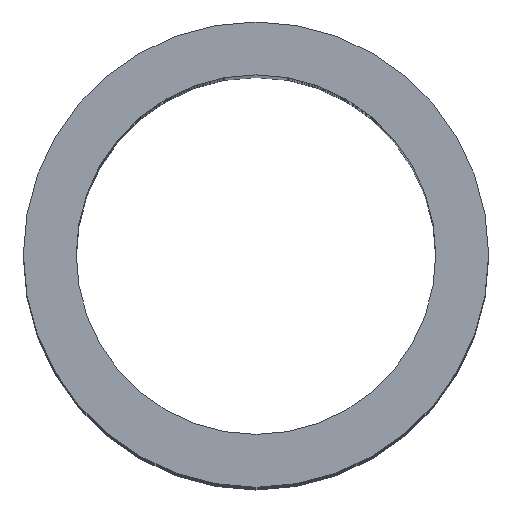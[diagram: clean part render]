
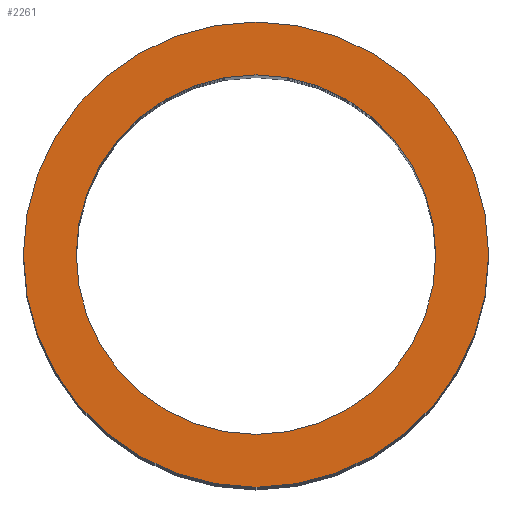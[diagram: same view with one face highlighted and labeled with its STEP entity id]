
A CAD part, top view. The second image highlights one B-rep face of the part: STEP entity #2261.
In plain terms, the highlighted planar face has unit normal (0, 0, 1).
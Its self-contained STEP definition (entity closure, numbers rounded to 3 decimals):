
#1487=CARTESIAN_POINT('Vertex',(-5.5,0.,37.)) ;
#1490=CARTESIAN_POINT('Axis2P3D Location',(0.,0.,37.)) ;
#1494=CARTESIAN_POINT('Vertex',(5.5,0.,37.)) ;
#1516=CARTESIAN_POINT('Axis2P3D Location',(0.,0.,37.)) ;
#2162=CARTESIAN_POINT('Axis2P3D Location',(0.,0.,37.)) ;
#2166=CARTESIAN_POINT('Vertex',(4.25,0.,37.)) ;
#2168=CARTESIAN_POINT('Vertex',(-4.25,0.,37.)) ;
#2212=CARTESIAN_POINT('Axis2P3D Location',(0.,0.,37.)) ;
#2248=CARTESIAN_POINT('Axis2P3D Location',(0.,0.,37.)) ;
#1491=DIRECTION('Axis2P3D Direction',(0.,0.,1.)) ;
#1517=DIRECTION('Axis2P3D Direction',(0.,0.,1.)) ;
#2163=DIRECTION('Axis2P3D Direction',(0.,0.,1.)) ;
#2213=DIRECTION('Axis2P3D Direction',(0.,0.,1.)) ;
#2249=DIRECTION('Axis2P3D Direction',(0.,0.,1.)) ;
#2250=DIRECTION('Axis2P3D XDirection',(1.,0.,0.)) ;
#1492=AXIS2_PLACEMENT_3D('Circle Axis2P3D',#1490,#1491,$) ;
#1518=AXIS2_PLACEMENT_3D('Circle Axis2P3D',#1516,#1517,$) ;
#2164=AXIS2_PLACEMENT_3D('Circle Axis2P3D',#2162,#2163,$) ;
#2214=AXIS2_PLACEMENT_3D('Circle Axis2P3D',#2212,#2213,$) ;
#2251=AXIS2_PLACEMENT_3D('Plane Axis2P3D',#2248,#2249,#2250) ;
#2254=ORIENTED_EDGE('',*,*,#1496,.T.) ;
#2255=ORIENTED_EDGE('',*,*,#1520,.T.) ;
#2258=ORIENTED_EDGE('',*,*,#2216,.F.) ;
#2259=ORIENTED_EDGE('',*,*,#2170,.F.) ;
#2260=FACE_BOUND('',#2257,.T.) ;
#2261=ADVANCED_FACE('\X2\96F64EF651E04F554F53\X0\',(#2256,#2260),#2252,.T.) ;
#1493=CIRCLE('generated circle',#1492,5.5) ;
#1519=CIRCLE('generated circle',#1518,5.5) ;
#2165=CIRCLE('generated circle',#2164,4.25) ;
#2215=CIRCLE('generated circle',#2214,4.25) ;
#1496=EDGE_CURVE('',#1495,#1488,#1493,.T.) ;
#1520=EDGE_CURVE('',#1488,#1495,#1519,.T.) ;
#2170=EDGE_CURVE('',#2167,#2169,#2165,.T.) ;
#2216=EDGE_CURVE('',#2169,#2167,#2215,.T.) ;
#2253=EDGE_LOOP('',(#2254,#2255)) ;
#2257=EDGE_LOOP('',(#2258,#2259)) ;
#2256=FACE_OUTER_BOUND('',#2253,.T.) ;
#2252=PLANE('Plane',#2251) ;
#1488=VERTEX_POINT('',#1487) ;
#1495=VERTEX_POINT('',#1494) ;
#2167=VERTEX_POINT('',#2166) ;
#2169=VERTEX_POINT('',#2168) ;
